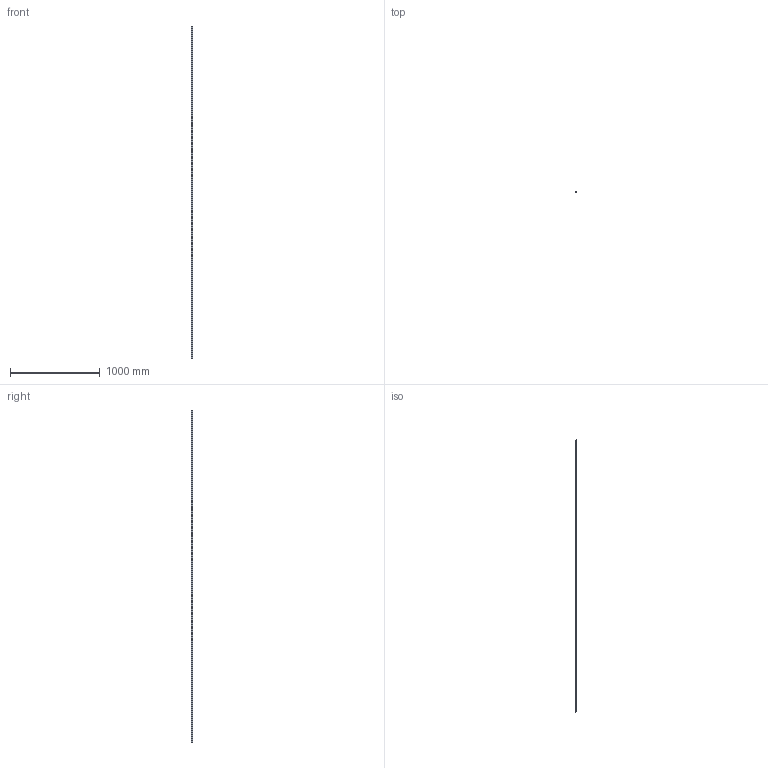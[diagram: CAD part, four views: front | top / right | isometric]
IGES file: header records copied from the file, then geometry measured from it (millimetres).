
Start section: SolidWorks IGES file using analytic representation for surfaces
Global section: file name: C:\Users\IanO\Desktop\L1016_v2\L1016.BL15_v2\L1016.BL15_v2_20190611_IGES\L1016.BL15-3700.igs; native system: SolidWorks 2017; preprocessor: SolidWorks 2017; author: IanO; date: 190612.123730; units: millimetre
Bounding box: 15 x 13 x 3700 mm (x, y, z)
Surface area: 225869.2 mm2 (no closed solid volume)
Topology: 0 solids, 0 shells, 336 faces, 9080 edges, 9080 vertices
Faces by surface type: revolution 252, bspline 84
